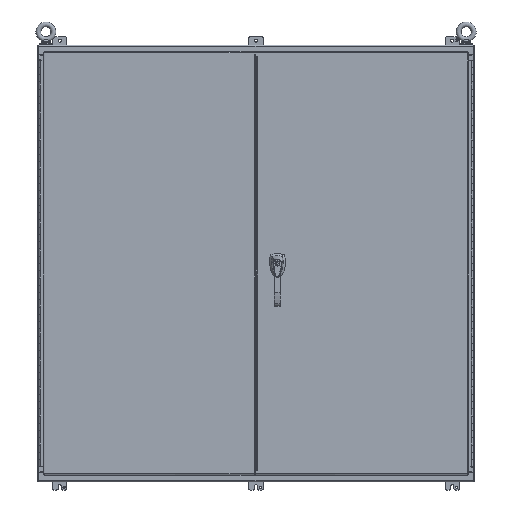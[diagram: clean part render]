
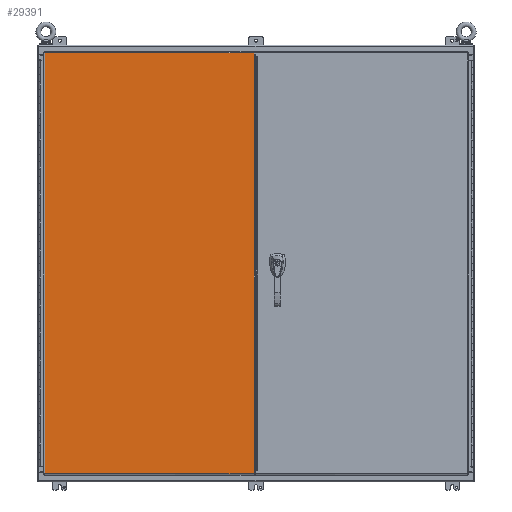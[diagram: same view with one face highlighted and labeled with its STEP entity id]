
A CAD part, front view. The second image highlights one B-rep face of the part: STEP entity #29391.
In plain terms, the highlighted planar face has unit normal (0, -1, 0).
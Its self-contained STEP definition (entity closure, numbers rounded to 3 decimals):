
#7716=ORIENTED_EDGE('',*,*,#13718,.T.);
#7717=ORIENTED_EDGE('',*,*,#13727,.T.);
#7718=ORIENTED_EDGE('',*,*,#13728,.F.);
#7719=ORIENTED_EDGE('',*,*,#13726,.T.);
#7720=ORIENTED_EDGE('',*,*,#13709,.T.);
#7721=ORIENTED_EDGE('',*,*,#13707,.T.);
#13707=EDGE_CURVE('',#17078,#17074,#19950,.T.);
#13709=EDGE_CURVE('',#17088,#17078,#19951,.T.);
#13718=EDGE_CURVE('',#17074,#17093,#19959,.T.);
#13726=EDGE_CURVE('',#17097,#17088,#19965,.T.);
#13727=EDGE_CURVE('',#17093,#17098,#19966,.T.);
#13728=EDGE_CURVE('',#17097,#17098,#19967,.T.);
#17074=VERTEX_POINT('',#46621);
#17078=VERTEX_POINT('',#46630);
#17088=VERTEX_POINT('',#46675);
#17093=VERTEX_POINT('',#46693);
#17097=VERTEX_POINT('',#46708);
#17098=VERTEX_POINT('',#46713);
#19950=LINE('',#46672,#22646);
#19951=LINE('',#46676,#22647);
#19959=LINE('',#46694,#22655);
#19965=LINE('',#46710,#22661);
#19966=LINE('',#46712,#22662);
#19967=LINE('',#46714,#22663);
#22646=VECTOR('',#37812,1000.);
#22647=VECTOR('',#37817,1000.);
#22655=VECTOR('',#37835,1000.);
#22661=VECTOR('',#37853,1000.);
#22662=VECTOR('',#37856,1000.);
#22663=VECTOR('',#37857,1000.);
#24763=EDGE_LOOP('',(#7716,#7717,#7718,#7719,#7720,#7721));
#26664=FACE_BOUND('',#24763,.T.);
#28073=PLANE('',#31947);
#29391=ADVANCED_FACE('',(#26664),#28073,.T.);
#31947=AXIS2_PLACEMENT_3D('',#46711,#37854,#37855);
#37812=DIRECTION('',(0.,0.,-1.));
#37817=DIRECTION('',(-1.,0.,0.));
#37835=DIRECTION('',(1.,0.,0.));
#37853=DIRECTION('',(0.,0.,1.));
#37854=DIRECTION('',(0.,-1.,0.));
#37855=DIRECTION('',(0.,0.,-1.));
#37856=DIRECTION('',(0.,0.,1.));
#37857=DIRECTION('',(0.,0.,-1.));
#46621=CARTESIAN_POINT('',(-366.255,0.,-1193.343));
#46630=CARTESIAN_POINT('',(-366.255,0.,278.943));
#46672=CARTESIAN_POINT('',(-366.255,0.,278.943));
#46675=CARTESIAN_POINT('',(366.255,0.,278.943));
#46676=CARTESIAN_POINT('',(366.255,0.,278.943));
#46693=CARTESIAN_POINT('',(366.255,0.,-1193.343));
#46694=CARTESIAN_POINT('',(-366.255,0.,-1193.343));
#46708=CARTESIAN_POINT('',(366.255,0.,269.443));
#46710=CARTESIAN_POINT('',(366.255,0.,269.443));
#46711=CARTESIAN_POINT('',(-366.255,0.,-1193.343));
#46712=CARTESIAN_POINT('',(366.255,0.,269.443));
#46713=CARTESIAN_POINT('',(366.255,0.,-1183.843));
#46714=CARTESIAN_POINT('',(366.255,0.,269.443));
